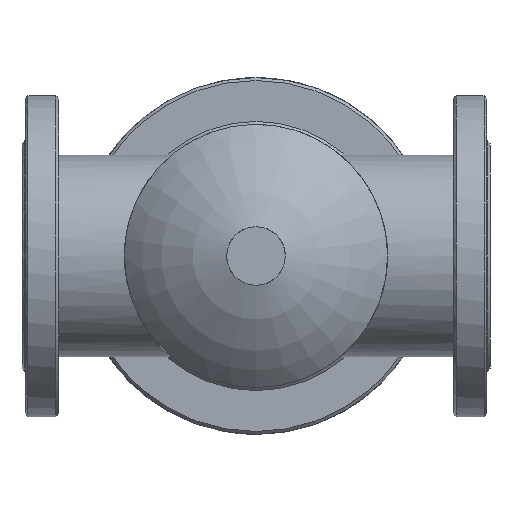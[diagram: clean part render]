
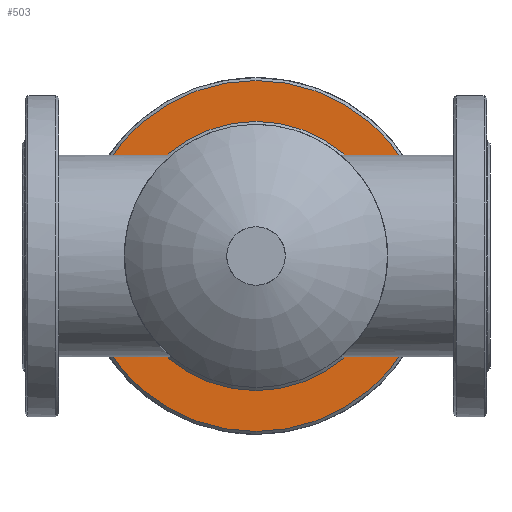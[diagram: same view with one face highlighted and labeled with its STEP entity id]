
A CAD part, front view. The second image highlights one B-rep face of the part: STEP entity #503.
In plain terms, the highlighted planar face has unit normal (0, -1, 0).
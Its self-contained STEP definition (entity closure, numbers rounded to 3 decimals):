
#503=ADVANCED_FACE('',(#1043,#1045),#1047,.F.);
#1043=FACE_BOUND('',#1044,.T.);
#1044=EDGE_LOOP('',(#1259));
#1045=FACE_BOUND('',#1046,.T.);
#1046=EDGE_LOOP('',(#1260));
#1047=PLANE('',#1048);
#1048=AXIS2_PLACEMENT_3D('',#1049,#1050,#1051);
#1049=CARTESIAN_POINT('',(-122.,260.,0.));
#1050=DIRECTION('',(0.,1.,0.));
#1051=DIRECTION('',(0.,0.,1.));
#1259=ORIENTED_EDGE('',*,*,#1343,.T.);
#1260=ORIENTED_EDGE('',*,*,#1338,.T.);
#1338=EDGE_CURVE('',#1471,#1471,#1472,.T.);
#1343=EDGE_CURVE('',#1481,#1481,#1482,.T.);
#1471=VERTEX_POINT('',#2596);
#1472=CIRCLE('',#2597,92.);
#1481=VERTEX_POINT('',#2621);
#1482=CIRCLE('',#2622,120.);
#2596=CARTESIAN_POINT('',(0.,260.,92.));
#2597=AXIS2_PLACEMENT_3D('',#2598,#2599,#2600);
#2598=CARTESIAN_POINT('',(0.,260.,0.));
#2599=DIRECTION('',(0.,1.,0.));
#2600=DIRECTION('',(0.,0.,1.));
#2621=CARTESIAN_POINT('',(0.,260.,120.));
#2622=AXIS2_PLACEMENT_3D('',#2623,#2624,#2625);
#2623=CARTESIAN_POINT('',(0.,260.,0.));
#2624=DIRECTION('',(0.,-1.,0.));
#2625=DIRECTION('',(0.,0.,-1.));
